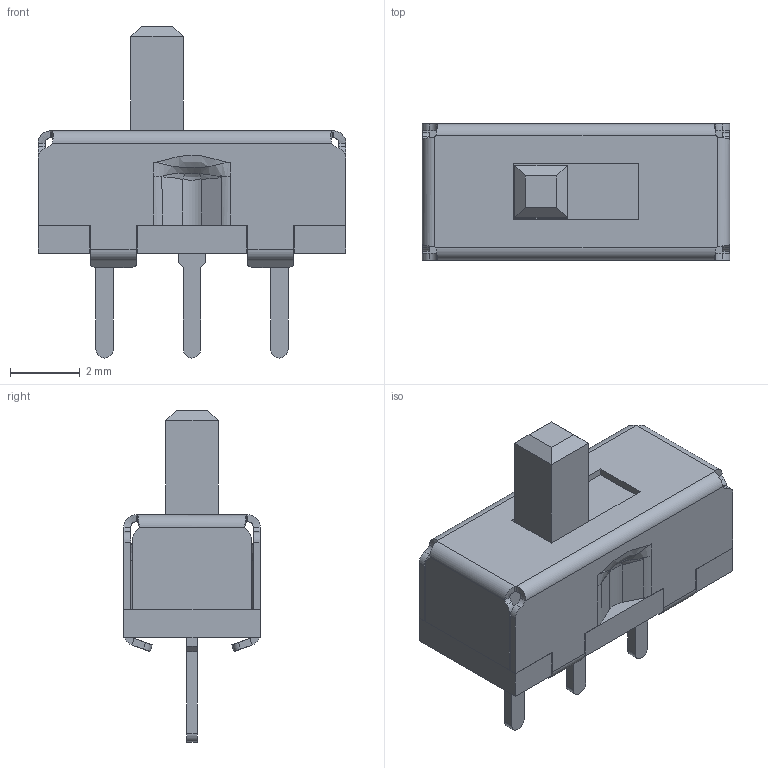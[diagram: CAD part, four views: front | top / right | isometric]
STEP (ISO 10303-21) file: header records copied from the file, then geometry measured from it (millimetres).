
FILE_DESCRIPTION (( 'STEP AP214' ), '1' );
FILE_NAME ('錨璃3.STEP', '2026-08-03T09:20:19', ( '' ), ( '' ), 'SwSTEP 2.0', 'SolidWorks 2021', '' );
FILE_SCHEMA (( 'AUTOMOTIVE_DESIGN' ));
Length unit declared in the file: millimetre
Products named in the file (1): 錨璃3
Bounding box: 8.8 x 3.9 x 9.5 mm (x, y, z)
Volume: 81.7 mm3; surface area: 415.5 mm2
Topology: 3 solids, 3 shells, 466 faces, 1238 edges, 796 vertices
Faces by surface type: plane 280, bspline 122, cylinder 64
Entity records: 21331 total; most frequent: CARTESIAN_POINT 5492, ORIENTED_EDGE 2460, DIRECTION 1762, EDGE_CURVE 1230, LINE 852, VECTOR 852, VERTEX_POINT 796, EDGE_LOOP 494
